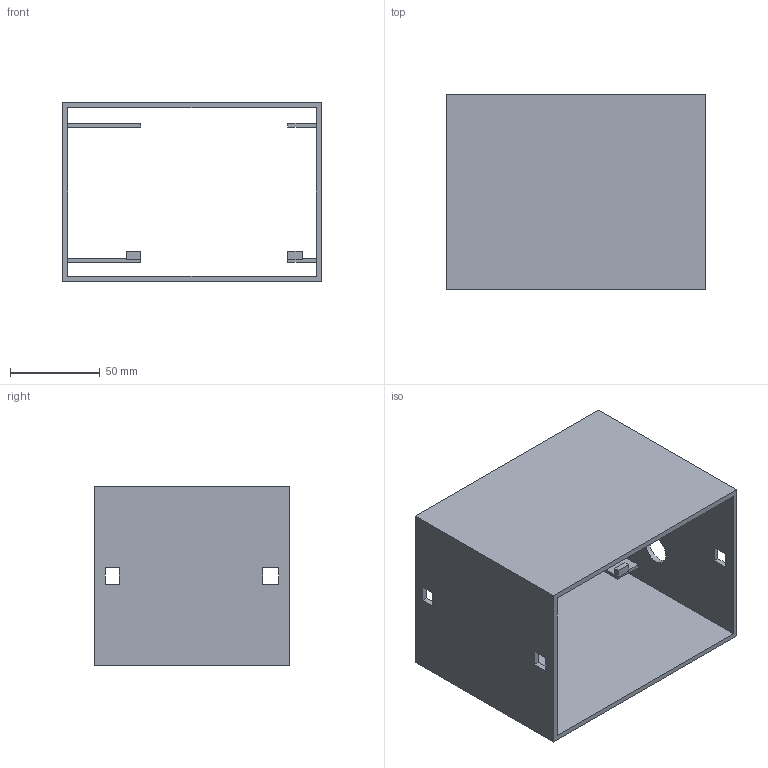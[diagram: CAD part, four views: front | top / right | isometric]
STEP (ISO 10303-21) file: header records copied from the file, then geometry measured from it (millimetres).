
FILE_DESCRIPTION(('Open CASCADE Model'),'2;1');
FILE_NAME('Open CASCADE Shape Model','2026-11-04T22:00:11',('Author'),( 'Open CASCADE'),'Open CASCADE STEP processor 7.8','Open CASCADE 7.8' ,'Unknown');
FILE_SCHEMA(('AUTOMOTIVE_DESIGN { 1 0 10303 214 1 1 1 1 }'));
Length unit declared in the file: millimetre
Products named in the file (1): Open CASCADE STEP translator 7.8 1
Bounding box: 145 x 109 x 100 mm (x, y, z)
Volume: 161596.4 mm3; surface area: 113898.6 mm2
Topology: 1 solids, 1 shells, 57 faces, 153 edges, 102 vertices
Faces by surface type: plane 56, cylinder 1
Full cylindrical faces by diameter (mm): 16 x1
Entity records: 3644 total; most frequent: CARTESIAN_POINT 747, DIRECTION 449, LINE 327, VECTOR 327, ORIENTED_EDGE 306, PCURVE 306, DEFINITIONAL_REPRESENTATION 306, EDGE_CURVE 153
